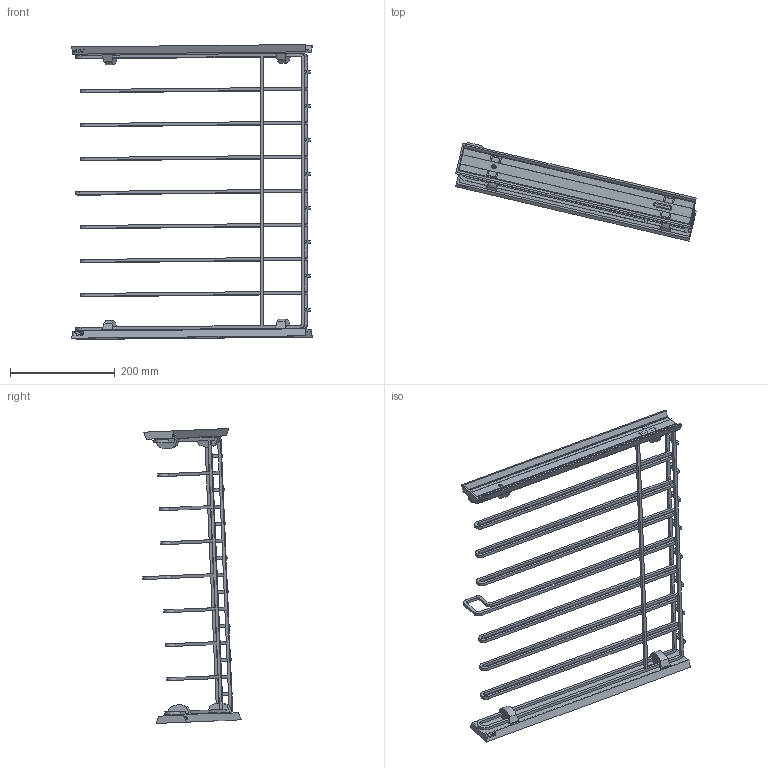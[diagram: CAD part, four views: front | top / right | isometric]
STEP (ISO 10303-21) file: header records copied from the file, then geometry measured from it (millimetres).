
FILE_DESCRIPTION(/* description */ (''),/* implementation_level */ '2;1');
FILE_NAME(/* name */ 'D:\$Workingspace\Designs\Meblowka\uproszczenia\garderoba smart\W-WSPD…-without slides.stp',/* time_stamp */ '2019-01-02T09:11:54+01:00',/* author */ ('tomaszw'),/* organization */ (''),/* preprocessor_version */ 'ST-DEVELOPER v17',/* originating_system */ 'Autodesk Inventor 2019',/* authorisation */ '');
FILE_SCHEMA (('AUTOMOTIVE_DESIGN { 1 0 10303 214 3 1 1 }'));
Length unit declared in the file: millimetre
Products named in the file (5): złożenie z koszem 11_2017; GTV_D_03_02; PPD_2; MD_1_02; DD_3_01
Assembly tree (11 placements, depth 2):
  złożenie z koszem 11_2017
    PPD_2  x2
    GTV_D_03_02
    MD_1_02  x4
    DD_3_01  x4
Bounding box: 459.49 x 187.85 x 563.46 mm (x, y, z)
Volume: 513927.1 mm3; surface area: 419443.2 mm2
Topology: 11 solids, 11 shells, 1121 faces, 3190 edges, 2116 vertices
Faces by surface type: plane 893, bspline 172, cylinder 52, cone 4
Full cylindrical faces by diameter (mm): 4.3 x6, 8.3 x2
Entity records: 16503 total; most frequent: CARTESIAN_POINT 3595, ORIENTED_EDGE 2862, DIRECTION 2301, EDGE_CURVE 1431, LINE 1249, VECTOR 1249, VERTEX_POINT 936, AXIS2_PLACEMENT_3D 526
